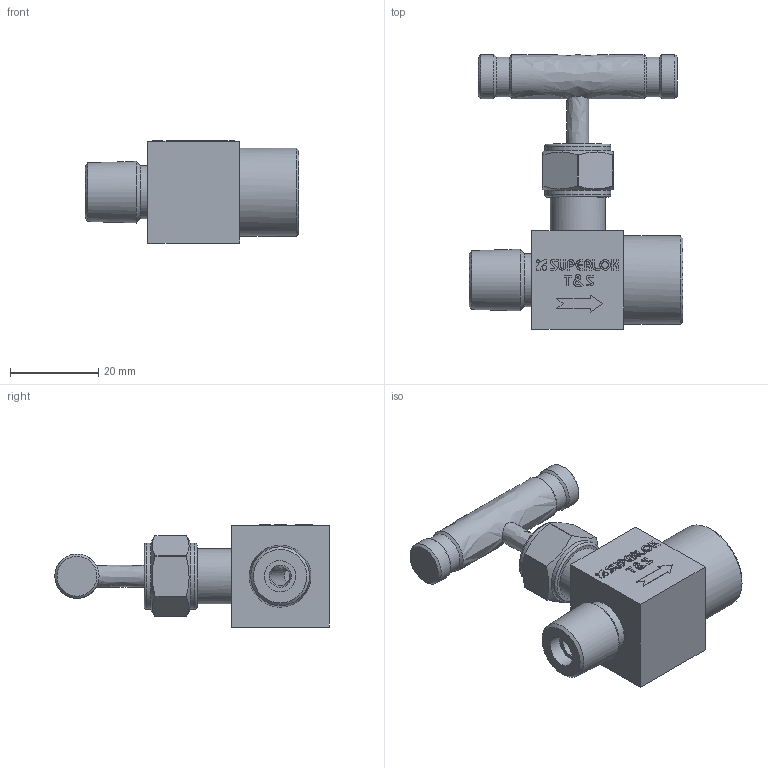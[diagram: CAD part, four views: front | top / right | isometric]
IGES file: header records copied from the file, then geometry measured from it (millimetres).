
Global section: file name: SBNV1-M4N-F4N; native system: Autodesk Inventor 2016; preprocessor: unknown; author: HP; date: 20161008.112034; units: millimetre
Bounding box: 48.4 x 62.1 x 23.1 mm (x, y, z)
Volume: 21800.5 mm3; surface area: 8017.9 mm2
Topology: 1 solids, 1 shells, 203 faces, 550 edges, 374 vertices
Faces by surface type: bspline 203
